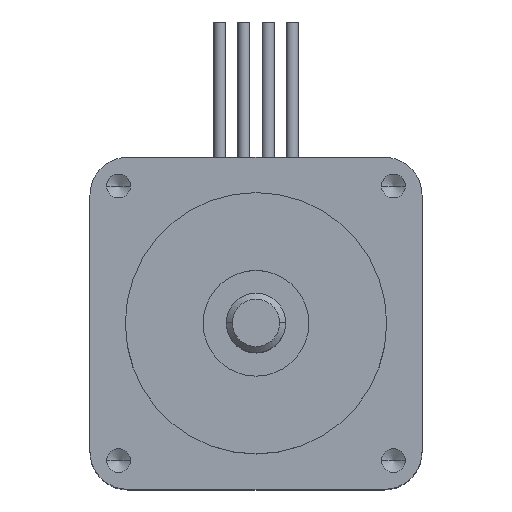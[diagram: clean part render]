
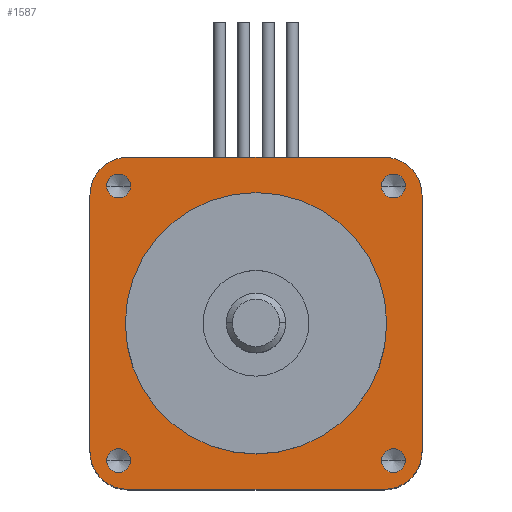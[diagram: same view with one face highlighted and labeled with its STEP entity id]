
A CAD part, top view. The second image highlights one B-rep face of the part: STEP entity #1587.
In plain terms, the highlighted planar face has unit normal (0, 0, 1).
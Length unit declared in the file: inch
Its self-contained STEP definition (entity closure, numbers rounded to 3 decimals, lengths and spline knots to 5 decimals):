
#185=CARTESIAN_POINT('',(-0.433,0.,1.24));
#186=VERTEX_POINT('',#185);
#195=CARTESIAN_POINT('',(0.433,0.,1.24));
#196=VERTEX_POINT('',#195);
#197=CARTESIAN_POINT('',(0.0,0.0,1.24));
#198=DIRECTION('',(0.0,0.0,-1.0));
#199=DIRECTION('',(-1.0,0.0,0.0));
#200=AXIS2_PLACEMENT_3D('',#197,#198,#199);
#201=CIRCLE('',#200,0.433);
#202=EDGE_CURVE('',#196,#186,#201,.T.);
#540=CARTESIAN_POINT('',(0.4945,0.455,1.24));
#541=VERTEX_POINT('',#540);
#557=CARTESIAN_POINT('',(0.4155,0.455,1.24));
#558=VERTEX_POINT('',#557);
#565=CARTESIAN_POINT('',(0.455,0.455,1.24));
#566=DIRECTION('',(0.0,0.0,-1.0));
#567=DIRECTION('',(1.0,0.0,0.0));
#568=AXIS2_PLACEMENT_3D('',#565,#566,#567);
#569=CIRCLE('',#568,0.0395);
#570=EDGE_CURVE('',#541,#558,#569,.T.);
#653=CARTESIAN_POINT('',(-0.4155,-0.455,1.24));
#654=VERTEX_POINT('',#653);
#670=CARTESIAN_POINT('',(-0.4945,-0.455,1.24));
#671=VERTEX_POINT('',#670);
#678=CARTESIAN_POINT('',(-0.455,-0.455,1.24));
#679=DIRECTION('',(0.0,0.0,-1.0));
#680=DIRECTION('',(1.0,0.0,0.0));
#681=AXIS2_PLACEMENT_3D('',#678,#679,#680);
#682=CIRCLE('',#681,0.0395);
#683=EDGE_CURVE('',#654,#671,#682,.T.);
#766=CARTESIAN_POINT('',(-0.4155,0.455,1.24));
#767=VERTEX_POINT('',#766);
#783=CARTESIAN_POINT('',(-0.4945,0.455,1.24));
#784=VERTEX_POINT('',#783);
#791=CARTESIAN_POINT('',(-0.455,0.455,1.24));
#792=DIRECTION('',(0.0,0.0,-1.0));
#793=DIRECTION('',(1.0,0.0,0.0));
#794=AXIS2_PLACEMENT_3D('',#791,#792,#793);
#795=CIRCLE('',#794,0.0395);
#796=EDGE_CURVE('',#767,#784,#795,.T.);
#879=CARTESIAN_POINT('',(0.4945,-0.455,1.24));
#880=VERTEX_POINT('',#879);
#896=CARTESIAN_POINT('',(0.4155,-0.455,1.24));
#897=VERTEX_POINT('',#896);
#904=CARTESIAN_POINT('',(0.455,-0.455,1.24));
#905=DIRECTION('',(0.0,0.0,-1.0));
#906=DIRECTION('',(1.0,0.0,0.0));
#907=AXIS2_PLACEMENT_3D('',#904,#905,#906);
#908=CIRCLE('',#907,0.0395);
#909=EDGE_CURVE('',#880,#897,#908,.T.);
#1023=CARTESIAN_POINT('',(0.455,-0.455,1.24));
#1024=DIRECTION('',(0.0,0.0,-1.0));
#1025=DIRECTION('',(1.0,0.0,0.0));
#1026=AXIS2_PLACEMENT_3D('',#1023,#1024,#1025);
#1027=CIRCLE('',#1026,0.0395);
#1028=EDGE_CURVE('',#897,#880,#1027,.T.);
#1094=CARTESIAN_POINT('',(-0.455,0.455,1.24));
#1095=DIRECTION('',(0.0,0.0,-1.0));
#1096=DIRECTION('',(1.0,0.0,0.0));
#1097=AXIS2_PLACEMENT_3D('',#1094,#1095,#1096);
#1098=CIRCLE('',#1097,0.0395);
#1099=EDGE_CURVE('',#784,#767,#1098,.T.);
#1165=CARTESIAN_POINT('',(-0.455,-0.455,1.24));
#1166=DIRECTION('',(0.0,0.0,-1.0));
#1167=DIRECTION('',(1.0,0.0,0.0));
#1168=AXIS2_PLACEMENT_3D('',#1165,#1166,#1167);
#1169=CIRCLE('',#1168,0.0395);
#1170=EDGE_CURVE('',#671,#654,#1169,.T.);
#1236=CARTESIAN_POINT('',(0.455,0.455,1.24));
#1237=DIRECTION('',(0.0,0.0,-1.0));
#1238=DIRECTION('',(1.0,0.0,0.0));
#1239=AXIS2_PLACEMENT_3D('',#1236,#1237,#1238);
#1240=CIRCLE('',#1239,0.0395);
#1241=EDGE_CURVE('',#558,#541,#1240,.T.);
#1468=CARTESIAN_POINT('',(0.0,0.0,1.24));
#1469=DIRECTION('',(0.0,0.0,-1.0));
#1470=DIRECTION('',(-1.0,0.0,0.0));
#1471=AXIS2_PLACEMENT_3D('',#1468,#1469,#1470);
#1472=CIRCLE('',#1471,0.433);
#1473=EDGE_CURVE('',#186,#196,#1472,.T.);
#1492=CARTESIAN_POINT('',(0.0,0.0,1.24));
#1493=DIRECTION('',(0.0,0.0,1.0));
#1494=DIRECTION('',(1.0,0.0,0.0));
#1495=AXIS2_PLACEMENT_3D('',#1492,#1493,#1494);
#1496=PLANE('',#1495);
#1497=CARTESIAN_POINT('',(-0.425,0.55,1.24));
#1498=VERTEX_POINT('',#1497);
#1499=CARTESIAN_POINT('',(-0.55,0.425,1.24));
#1500=VERTEX_POINT('',#1499);
#1501=CARTESIAN_POINT('',(-0.425,0.425,1.24));
#1502=DIRECTION('',(0.0,0.0,1.0));
#1503=DIRECTION('',(0.0,1.0,0.0));
#1504=AXIS2_PLACEMENT_3D('',#1501,#1502,#1503);
#1505=CIRCLE('',#1504,0.125);
#1506=EDGE_CURVE('',#1498,#1500,#1505,.T.);
#1507=ORIENTED_EDGE('',*,*,#1506,.T.);
#1508=CARTESIAN_POINT('',(-0.55,-0.425,1.24));
#1509=VERTEX_POINT('',#1508);
#1510=CARTESIAN_POINT('',(-0.55,0.425,1.24));
#1511=DIRECTION('',(0.0,-1.0,0.0));
#1512=VECTOR('',#1511,0.85);
#1513=LINE('',#1510,#1512);
#1514=EDGE_CURVE('',#1500,#1509,#1513,.T.);
#1515=ORIENTED_EDGE('',*,*,#1514,.T.);
#1516=CARTESIAN_POINT('',(-0.425,-0.55,1.24));
#1517=VERTEX_POINT('',#1516);
#1518=CARTESIAN_POINT('',(-0.425,-0.425,1.24));
#1519=DIRECTION('',(0.0,0.0,1.0));
#1520=DIRECTION('',(-1.0,0.0,0.0));
#1521=AXIS2_PLACEMENT_3D('',#1518,#1519,#1520);
#1522=CIRCLE('',#1521,0.125);
#1523=EDGE_CURVE('',#1509,#1517,#1522,.T.);
#1524=ORIENTED_EDGE('',*,*,#1523,.T.);
#1525=CARTESIAN_POINT('',(0.425,-0.55,1.24));
#1526=VERTEX_POINT('',#1525);
#1527=CARTESIAN_POINT('',(-0.425,-0.55,1.24));
#1528=DIRECTION('',(1.0,0.0,0.0));
#1529=VECTOR('',#1528,0.85);
#1530=LINE('',#1527,#1529);
#1531=EDGE_CURVE('',#1517,#1526,#1530,.T.);
#1532=ORIENTED_EDGE('',*,*,#1531,.T.);
#1533=CARTESIAN_POINT('',(0.55,-0.425,1.24));
#1534=VERTEX_POINT('',#1533);
#1535=CARTESIAN_POINT('',(0.425,-0.425,1.24));
#1536=DIRECTION('',(0.0,0.0,1.0));
#1537=DIRECTION('',(0.0,-1.0,0.0));
#1538=AXIS2_PLACEMENT_3D('',#1535,#1536,#1537);
#1539=CIRCLE('',#1538,0.125);
#1540=EDGE_CURVE('',#1526,#1534,#1539,.T.);
#1541=ORIENTED_EDGE('',*,*,#1540,.T.);
#1542=CARTESIAN_POINT('',(0.55,0.425,1.24));
#1543=VERTEX_POINT('',#1542);
#1544=CARTESIAN_POINT('',(0.55,-0.425,1.24));
#1545=DIRECTION('',(0.0,1.0,0.0));
#1546=VECTOR('',#1545,0.85);
#1547=LINE('',#1544,#1546);
#1548=EDGE_CURVE('',#1534,#1543,#1547,.T.);
#1549=ORIENTED_EDGE('',*,*,#1548,.T.);
#1550=CARTESIAN_POINT('',(0.425,0.55,1.24));
#1551=VERTEX_POINT('',#1550);
#1552=CARTESIAN_POINT('',(0.425,0.425,1.24));
#1553=DIRECTION('',(0.0,0.0,1.0));
#1554=DIRECTION('',(1.0,0.0,0.0));
#1555=AXIS2_PLACEMENT_3D('',#1552,#1553,#1554);
#1556=CIRCLE('',#1555,0.125);
#1557=EDGE_CURVE('',#1543,#1551,#1556,.T.);
#1558=ORIENTED_EDGE('',*,*,#1557,.T.);
#1559=CARTESIAN_POINT('',(0.425,0.55,1.24));
#1560=DIRECTION('',(-1.0,0.0,0.0));
#1561=VECTOR('',#1560,0.85);
#1562=LINE('',#1559,#1561);
#1563=EDGE_CURVE('',#1551,#1498,#1562,.T.);
#1564=ORIENTED_EDGE('',*,*,#1563,.T.);
#1565=EDGE_LOOP('',(#1507,#1515,#1524,#1532,#1541,#1549,#1558,#1564));
#1566=FACE_OUTER_BOUND('',#1565,.T.);
#1567=ORIENTED_EDGE('',*,*,#909,.T.);
#1568=ORIENTED_EDGE('',*,*,#1028,.T.);
#1569=EDGE_LOOP('',(#1567,#1568));
#1570=FACE_BOUND('',#1569,.T.);
#1571=ORIENTED_EDGE('',*,*,#796,.T.);
#1572=ORIENTED_EDGE('',*,*,#1099,.T.);
#1573=EDGE_LOOP('',(#1571,#1572));
#1574=FACE_BOUND('',#1573,.T.);
#1575=ORIENTED_EDGE('',*,*,#683,.T.);
#1576=ORIENTED_EDGE('',*,*,#1170,.T.);
#1577=EDGE_LOOP('',(#1575,#1576));
#1578=FACE_BOUND('',#1577,.T.);
#1579=ORIENTED_EDGE('',*,*,#570,.T.);
#1580=ORIENTED_EDGE('',*,*,#1241,.T.);
#1581=EDGE_LOOP('',(#1579,#1580));
#1582=FACE_BOUND('',#1581,.T.);
#1583=ORIENTED_EDGE('',*,*,#202,.T.);
#1584=ORIENTED_EDGE('',*,*,#1473,.T.);
#1585=EDGE_LOOP('',(#1583,#1584));
#1586=FACE_BOUND('',#1585,.T.);
#1587=ADVANCED_FACE('',(#1566,#1570,#1574,#1578,#1582,#1586),#1496,.T.);
